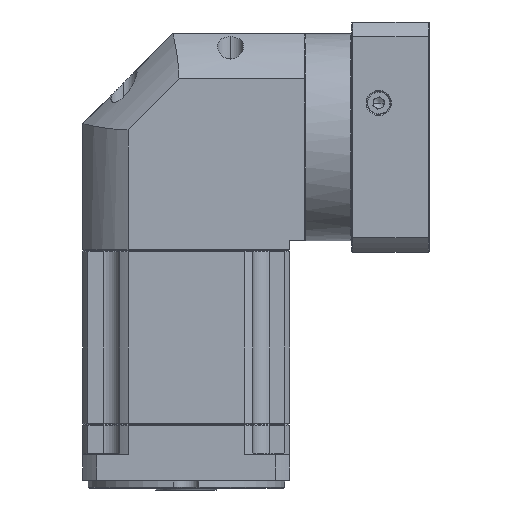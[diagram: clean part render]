
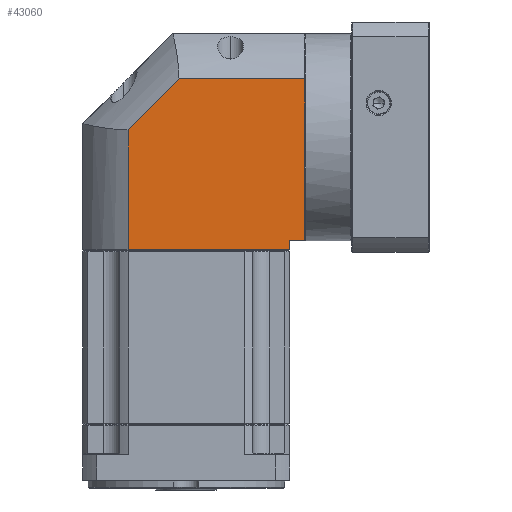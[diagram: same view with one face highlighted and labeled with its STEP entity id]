
A CAD part, front view. The second image highlights one B-rep face of the part: STEP entity #43060.
In plain terms, the highlighted planar face has unit normal (0, -1, 0).
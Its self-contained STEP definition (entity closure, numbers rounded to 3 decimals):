
#1969 = CARTESIAN_POINT ( 'NONE',  ( -15.068, 1.007, -60.723 ) ) ;
#2810 = LINE ( 'NONE', #1969, #111305 ) ;
#5831 = EDGE_CURVE ( 'NONE', #18527, #87762, #33376, .T. ) ;
#9723 = DIRECTION ( 'NONE',  ( 0., 0., -1. ) ) ;
#10552 = CARTESIAN_POINT ( 'NONE',  ( 10.033, 1.007, 5.839 ) ) ;
#11860 = VERTEX_POINT ( 'NONE', #37055 ) ;
#12432 = ORIENTED_EDGE ( 'NONE', *, *, #5831, .F. ) ;
#13277 = ORIENTED_EDGE ( 'NONE', *, *, #21673, .F. ) ;
#14258 = CARTESIAN_POINT ( 'NONE',  ( 10.033, 1.007, -67.223 ) ) ;
#15353 = EDGE_CURVE ( 'NONE', #87762, #11860, #88340, .T. ) ;
#17520 = CARTESIAN_POINT ( 'NONE',  ( -15.068, 1.007, 34.177 ) ) ;
#18527 = VERTEX_POINT ( 'NONE', #10552 ) ;
#21129 = ORIENTED_EDGE ( 'NONE', *, *, #111808, .F. ) ;
#21673 = EDGE_CURVE ( 'NONE', #129508, #49167, #42527, .T. ) ;
#22423 = CARTESIAN_POINT ( 'NONE',  ( 38.371, 1.007, 34.177 ) ) ;
#26544 = DIRECTION ( 'NONE',  ( 0.707, 0., 0.707 ) ) ;
#29966 = ORIENTED_EDGE ( 'NONE', *, *, #15353, .F. ) ;
#33376 = LINE ( 'NONE', #127788, #74711 ) ;
#37055 = CARTESIAN_POINT ( 'NONE',  ( 108.332, 1.007, 34.177 ) ) ;
#37641 = VERTEX_POINT ( 'NONE', #59069 ) ;
#42285 = DIRECTION ( 'NONE',  ( -1., 0., 0. ) ) ;
#42527 = LINE ( 'NONE', #126673, #112836 ) ;
#43060 = ADVANCED_FACE ( 'NONE', ( #88210 ), #127365, .F. ) ;
#47314 = VECTOR ( 'NONE', #42285, 1000. ) ;
#49167 = VERTEX_POINT ( 'NONE', #73758 ) ;
#53972 = DIRECTION ( 'NONE',  ( 0., 0., 1. ) ) ;
#59069 = CARTESIAN_POINT ( 'NONE',  ( 108.332, 1.007, -55.723 ) ) ;
#61290 = VECTOR ( 'NONE', #88797, 1000. ) ;
#67598 = DIRECTION ( 'NONE',  ( 0., 1., 0. ) ) ;
#68832 = ORIENTED_EDGE ( 'NONE', *, *, #120737, .F. ) ;
#69827 = CARTESIAN_POINT ( 'NONE',  ( 108.332, 1.007, -67.223 ) ) ;
#70858 = EDGE_CURVE ( 'NONE', #11860, #37641, #100160, .T. ) ;
#72091 = LINE ( 'NONE', #14258, #129581 ) ;
#73758 = CARTESIAN_POINT ( 'NONE',  ( 99.932, 1.007, -60.723 ) ) ;
#74711 = VECTOR ( 'NONE', #26544, 1000. ) ;
#75791 = DIRECTION ( 'NONE',  ( 0., 0., -1. ) ) ;
#83742 = ORIENTED_EDGE ( 'NONE', *, *, #70858, .F. ) ;
#84474 = VERTEX_POINT ( 'NONE', #85654 ) ;
#85654 = CARTESIAN_POINT ( 'NONE',  ( 10.033, 1.007, -60.723 ) ) ;
#87670 = EDGE_CURVE ( 'NONE', #49167, #84474, #2810, .T. ) ;
#87762 = VERTEX_POINT ( 'NONE', #22423 ) ;
#88026 = AXIS2_PLACEMENT_3D ( 'NONE', #107372, #67598, #108689 ) ;
#88210 = FACE_OUTER_BOUND ( 'NONE', #109303, .T. ) ;
#88340 = LINE ( 'NONE', #17520, #61290 ) ;
#88797 = DIRECTION ( 'NONE',  ( 1., 0., 0. ) ) ;
#91473 = CARTESIAN_POINT ( 'NONE',  ( 99.932, 1.007, -55.723 ) ) ;
#93145 = CARTESIAN_POINT ( 'NONE',  ( -15.068, 1.007, -55.723 ) ) ;
#93714 = DIRECTION ( 'NONE',  ( -1., 0., 0. ) ) ;
#100160 = LINE ( 'NONE', #69827, #109796 ) ;
#107372 = CARTESIAN_POINT ( 'NONE',  ( -15.068, 1.007, -67.223 ) ) ;
#108689 = DIRECTION ( 'NONE',  ( 1., 0., 0. ) ) ;
#109303 = EDGE_LOOP ( 'NONE', ( #13277, #68832, #83742, #29966, #12432, #21129, #129070 ) ) ;
#109796 = VECTOR ( 'NONE', #9723, 1000. ) ;
#111305 = VECTOR ( 'NONE', #93714, 1000. ) ;
#111808 = EDGE_CURVE ( 'NONE', #84474, #18527, #72091, .T. ) ;
#112836 = VECTOR ( 'NONE', #75791, 1000. ) ;
#120737 = EDGE_CURVE ( 'NONE', #37641, #129508, #128617, .T. ) ;
#126673 = CARTESIAN_POINT ( 'NONE',  ( 99.932, 1.007, -67.223 ) ) ;
#127365 = PLANE ( 'NONE',  #88026 ) ;
#127788 = CARTESIAN_POINT ( 'NONE',  ( 10.033, 1.007, 5.839 ) ) ;
#128617 = LINE ( 'NONE', #93145, #47314 ) ;
#129070 = ORIENTED_EDGE ( 'NONE', *, *, #87670, .F. ) ;
#129508 = VERTEX_POINT ( 'NONE', #91473 ) ;
#129581 = VECTOR ( 'NONE', #53972, 1000. ) ;
